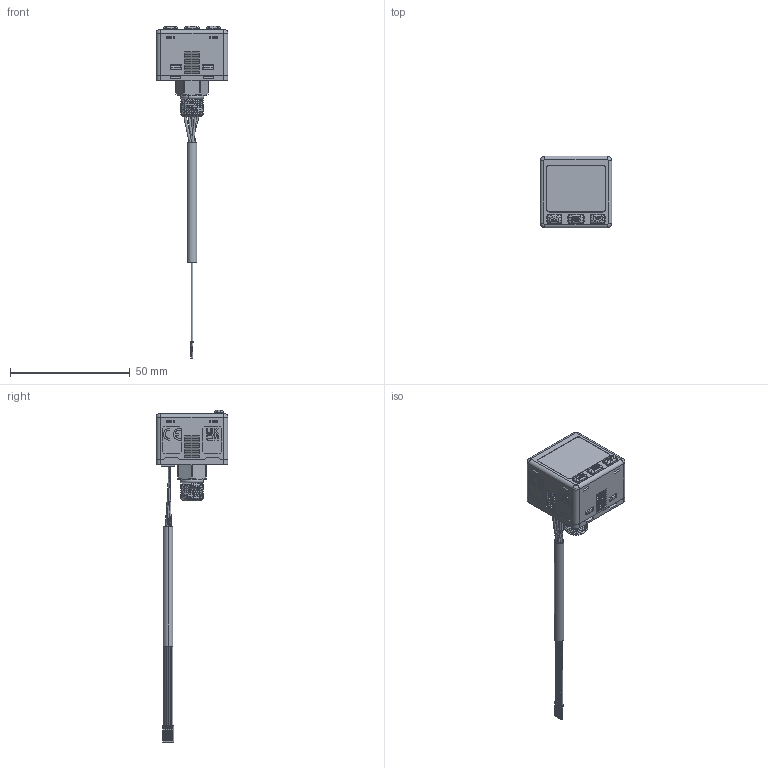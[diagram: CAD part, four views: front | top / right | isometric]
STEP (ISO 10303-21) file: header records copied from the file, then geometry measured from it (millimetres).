
FILE_DESCRIPTION((''),'2;1');
FILE_NAME('KP48-G8','2024-12-13T',('tommy'),(''),'CREO PARAMETRIC BY PTC INC, 2014500','CREO PARAMETRIC BY PTC INC, 2014500','');
FILE_SCHEMA(('CONFIG_CONTROL_DESIGN'));
Products named in the file (1): KP48-G8
Bounding box: 30 x 30 x 138.55 mm (x, y, z)
Volume: 9038.2 mm3; surface area: 15415.2 mm2
Topology: 1 solids, 1 shells, 2920 faces, 8362 edges, 5366 vertices
Faces by surface type: plane 1784, cylinder 574, bspline 247, extrusion 216, cone 95, torus 4
Entity records: 139582 total; most frequent: CARTESIAN_POINT 66210, ORIENTED_EDGE 16654, DIRECTION 13021, EDGE_CURVE 8327, VECTOR 5699, LINE 5483, VERTEX_POINT 5366, AXIS2_PLACEMENT_3D 3661
